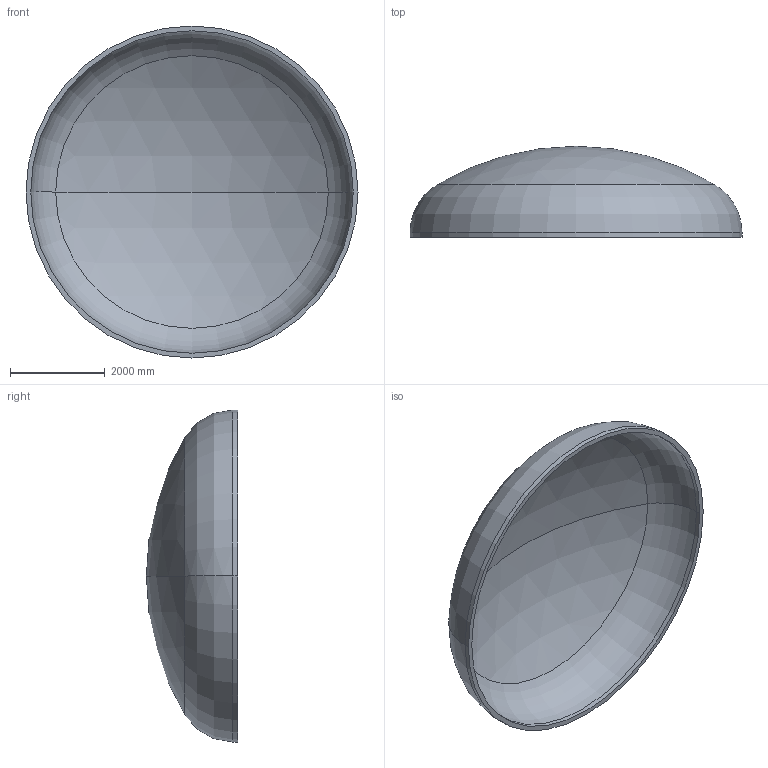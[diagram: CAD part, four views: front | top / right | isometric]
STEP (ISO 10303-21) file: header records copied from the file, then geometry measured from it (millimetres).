
FILE_DESCRIPTION (( 'STEP AP203' ), '1' );
FILE_NAME ('DIN 28013 Korbbogenform_-_Boden DIN 28013 - 7000 x 100 - I - s=100.step', '2016-07-04T10:50:03', ( '' ), ( '' ), 'SwSTEP 2.0', 'SolidWorks 2013', '' );
FILE_SCHEMA (( 'CONFIG_CONTROL_DESIGN' ));
Length unit declared in the file: millimetre
Products named in the file (1): DIN 28013 Korbbogenform_-_Boden DIN 28013 - 7000 x 100 - I - s=100
Bounding box: 7000 x 1920.82 x 7000 mm (x, y, z)
Volume: 5449086182.9 mm3; surface area: 111170325.3 mm2
Topology: 1 solids, 1 shells, 13 faces, 24 edges, 14 vertices
Faces by surface type: torus 4, cylinder 4, sphere 4, plane 1
Entity records: 407 total; most frequent: DIRECTION 72, CARTESIAN_POINT 52, ORIENTED_EDGE 48, AXIS2_PLACEMENT_3D 34, EDGE_CURVE 24, CIRCLE 20, EDGE_LOOP 14, VERTEX_POINT 14
